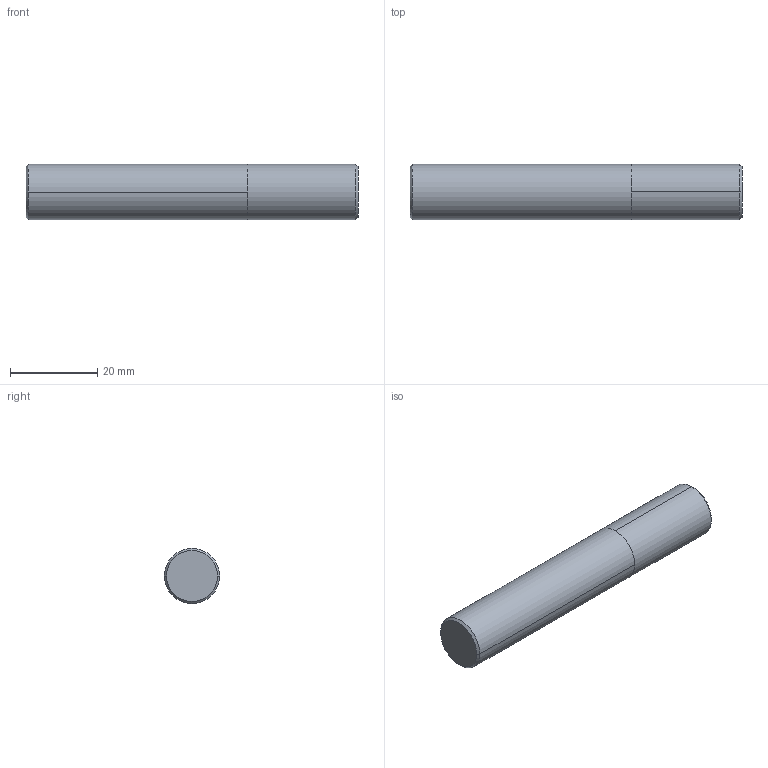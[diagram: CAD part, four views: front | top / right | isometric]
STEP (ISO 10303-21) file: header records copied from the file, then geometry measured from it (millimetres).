
FILE_DESCRIPTION (( 'STEP AP214' ), '1' );
FILE_NAME ('GM156032.STEP', '2021-03-15T00:42:42', ( 'USER' ), ( 'Hewlett-Packard Company' ), 'SwSTEP 2.0', 'SolidWorks 2014', '' );
FILE_SCHEMA (( 'AUTOMOTIVE_DESIGN' ));
Length unit declared in the file: millimetre
Products named in the file (1): GM156032
Bounding box: 76.2 x 12.7 x 12.7 mm (x, y, z)
Volume: 9640.7 mm3; surface area: 3520.2 mm2
Topology: 2 solids, 2 shells, 12 faces, 20 edges, 12 vertices
Faces by surface type: cylinder 4, cone 4, plane 4
Entity records: 393 total; most frequent: DIRECTION 58, CARTESIAN_POINT 45, ORIENTED_EDGE 40, AXIS2_PLACEMENT_3D 25, EDGE_CURVE 20, EDGE_LOOP 12, VERTEX_POINT 12, ADVANCED_FACE 12
